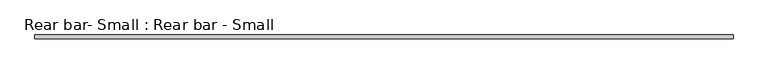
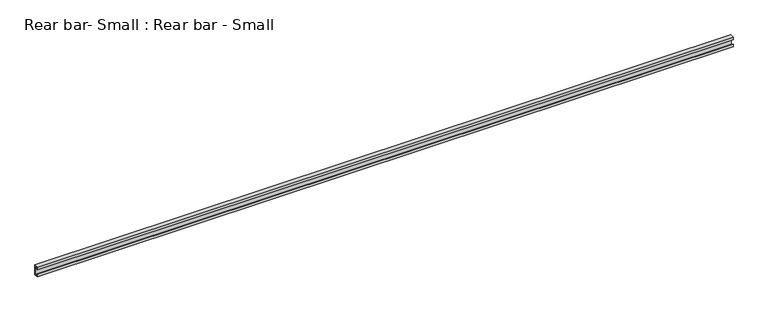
"""IFC4 building model written with IfcOpenShell, lengths in millimetres: proxy geometry, Rear bar- Small : Rear bar - Small."""

from ifc_helpers import new_model, si_unit, frame, origin, place, context, project, spatial, polyline, outline, extrude, source, transform, mapped, element, save


def rear_bar_small_rear_bar_small_9124fe10(model_context):
    return source(origin(), model_context, "Body", "SweptSolid", [
        extrude(outline(polyline([(0.0, 53.5061768), (20.0, 53.5061768), (20.0, 0.0), (0.0, 0.0), (0.0, 13.75), (1.8, 13.75), (1.8, 1.8), (18.2, 1.8), (18.2, 51.7), (1.8, 51.7), (1.8, 39.75), (0.0, 39.75), (0.0, 53.5061768)])), frame((0.0, 0.0, 0.0), z_axis=(1.0, 0.0, 0.0), x_axis=(0.0, 1.0, 0.0)), (0.0, 0.0, 1.0), 3644.0),
    ])


if __name__ == "__main__":
    model = new_model("IFC4")
    model_context = context("Model", 3, world=origin())
    ifc_project = project(units=[si_unit("LENGTHUNIT", "METRE", prefix="MILLI")], contexts=[model_context])
    site = spatial("IfcSite", under=ifc_project)
    building = spatial("IfcBuilding", under=site)
    placement = place(None, origin())
    rear_bar_small_rear_bar_small_shape = rear_bar_small_rear_bar_small_9124fe10(model_context)
    element("IfcBuildingElementProxy", 1, Name="Rear bar- Small : Rear bar - Small", ObjectType="Rear bar- Small : Rear bar - Small", at=placement, inside=building, context=model_context, shape_type="MappedRepresentation", body=[
        mapped(rear_bar_small_rear_bar_small_shape, transform((0.0, 0.0, 0.0), x_axis=(1.0, 0.0, 0.0), y_axis=(0.0, 1.0, 0.0), z_axis=(0.0, 0.0, 1.0))),
    ])
    save(model, "model.ifc")
